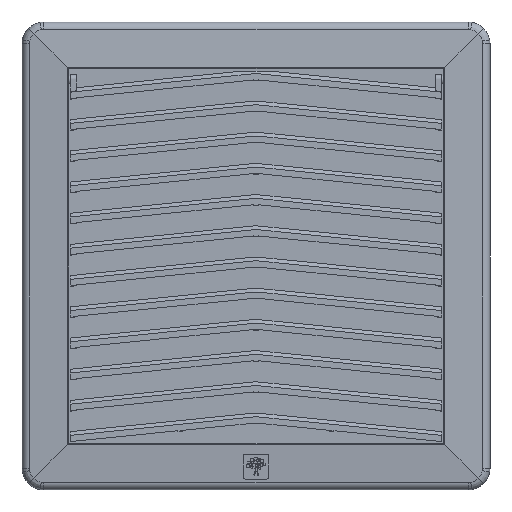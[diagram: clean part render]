
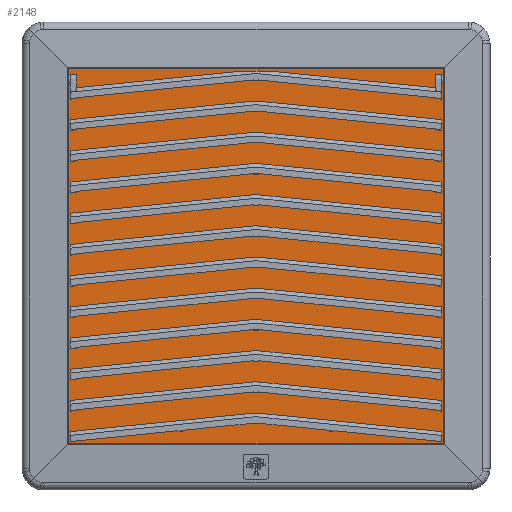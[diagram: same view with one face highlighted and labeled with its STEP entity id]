
A CAD part, top view. The second image highlights one B-rep face of the part: STEP entity #2148.
In plain terms, the highlighted planar face has unit normal (0, 0, 1).
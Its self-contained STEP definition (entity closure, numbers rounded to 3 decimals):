
#550 = DIRECTION ( 'NONE',  ( 1., 0., 0. ) ) ;
#1393 = CARTESIAN_POINT ( 'NONE',  ( 60.022, -59.07, 29.265 ) ) ;
#1759 = EDGE_CURVE ( 'NONE', #28308, #29516, #12839, .T. ) ;
#2148 = ADVANCED_FACE ( 'NONE', ( #24735 ), #3625, .T. ) ;
#3625 = PLANE ( 'NONE',  #11308 ) ;
#4225 = DIRECTION ( 'NONE',  ( 1., 0., 0. ) ) ;
#4704 = VECTOR ( 'NONE', #4225, 1000. ) ;
#5552 = VECTOR ( 'NONE', #20266, 1000. ) ;
#5705 = ORIENTED_EDGE ( 'NONE', *, *, #1759, .T. ) ;
#7885 = VERTEX_POINT ( 'NONE', #9647 ) ;
#8704 = CARTESIAN_POINT ( 'NONE',  ( 60.022, 60.022, 29.265 ) ) ;
#9647 = CARTESIAN_POINT ( 'NONE',  ( -60.022, 60.022, 29.265 ) ) ;
#9885 = ORIENTED_EDGE ( 'NONE', *, *, #22446, .T. ) ;
#10668 = CARTESIAN_POINT ( 'NONE',  ( -60.022, -60.022, 29.265 ) ) ;
#10999 = LINE ( 'NONE', #15404, #4704 ) ;
#11308 = AXIS2_PLACEMENT_3D ( 'NONE', #23187, #20784, #550 ) ;
#12303 = VERTEX_POINT ( 'NONE', #10668 ) ;
#12839 = LINE ( 'NONE', #1393, #5552 ) ;
#13235 = LINE ( 'NONE', #22456, #20539 ) ;
#14906 = CARTESIAN_POINT ( 'NONE',  ( 59.07, 60.022, 29.265 ) ) ;
#14953 = EDGE_LOOP ( 'NONE', ( #5705, #24785, #19723, #9885 ) ) ;
#15404 = CARTESIAN_POINT ( 'NONE',  ( 59.07, -60.022, 29.265 ) ) ;
#17702 = VECTOR ( 'NONE', #26519, 1000. ) ;
#19280 = EDGE_CURVE ( 'NONE', #7885, #12303, #13235, .T. ) ;
#19723 = ORIENTED_EDGE ( 'NONE', *, *, #19280, .T. ) ;
#20266 = DIRECTION ( 'NONE',  ( 0., 1., 0. ) ) ;
#20539 = VECTOR ( 'NONE', #25031, 1000. ) ;
#20784 = DIRECTION ( 'NONE',  ( 0., 0., 1. ) ) ;
#21482 = EDGE_CURVE ( 'NONE', #29516, #7885, #29388, .T. ) ;
#22446 = EDGE_CURVE ( 'NONE', #12303, #28308, #10999, .T. ) ;
#22456 = CARTESIAN_POINT ( 'NONE',  ( -60.022, -59.07, 29.265 ) ) ;
#23187 = CARTESIAN_POINT ( 'NONE',  ( 71.82, -71.817, 29.265 ) ) ;
#24735 = FACE_OUTER_BOUND ( 'NONE', #14953, .T. ) ;
#24785 = ORIENTED_EDGE ( 'NONE', *, *, #21482, .T. ) ;
#25031 = DIRECTION ( 'NONE',  ( 0., -1., 0. ) ) ;
#25332 = CARTESIAN_POINT ( 'NONE',  ( 60.022, -60.022, 29.265 ) ) ;
#26519 = DIRECTION ( 'NONE',  ( -1., 0., 0. ) ) ;
#28308 = VERTEX_POINT ( 'NONE', #25332 ) ;
#29388 = LINE ( 'NONE', #14906, #17702 ) ;
#29516 = VERTEX_POINT ( 'NONE', #8704 ) ;
